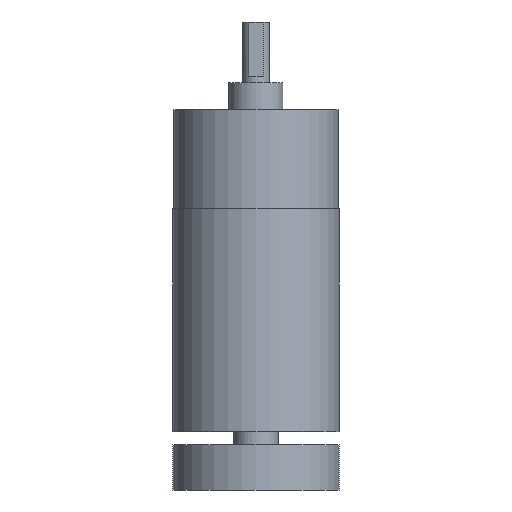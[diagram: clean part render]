
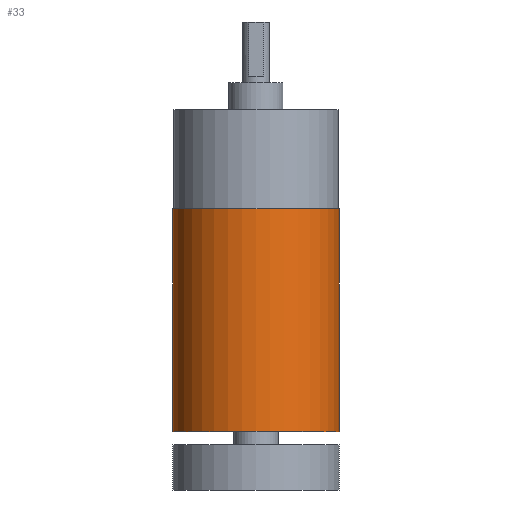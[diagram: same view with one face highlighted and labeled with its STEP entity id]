
A CAD part, front view. The second image highlights one B-rep face of the part: STEP entity #33.
In plain terms, the highlighted cylindrical face has radius 18.5 mm (diameter 37 mm), a partial arc.
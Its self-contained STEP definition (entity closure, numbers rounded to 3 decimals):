
#26 = AXIS2_PLACEMENT_3D ( 'NONE', #494, #157, #336 ) ;
#33 = ADVANCED_FACE ( 'NONE', ( #145 ), #886, .T. ) ;
#57 = ORIENTED_EDGE ( 'NONE', *, *, #199, .F. ) ;
#116 = CARTESIAN_POINT ( 'NONE',  ( -18.5, 0., 52.5 ) ) ;
#145 = FACE_OUTER_BOUND ( 'NONE', #470, .T. ) ;
#157 = DIRECTION ( 'NONE',  ( 0., 0., -1. ) ) ;
#199 = EDGE_CURVE ( 'NONE', #889, #447, #355, .T. ) ;
#240 = ORIENTED_EDGE ( 'NONE', *, *, #299, .T. ) ;
#267 = DIRECTION ( 'NONE',  ( 0., 0., -1. ) ) ;
#299 = EDGE_CURVE ( 'NONE', #1073, #447, #549, .T. ) ;
#329 = DIRECTION ( 'NONE',  ( 1., 0., 0. ) ) ;
#336 = DIRECTION ( 'NONE',  ( -1., 0., 0. ) ) ;
#355 = LINE ( 'NONE', #746, #412 ) ;
#373 = LINE ( 'NONE', #116, #827 ) ;
#389 = CIRCLE ( 'NONE', #526, 18.5 ) ;
#400 = CARTESIAN_POINT ( 'NONE',  ( -18.5, 0., 52.5 ) ) ;
#412 = VECTOR ( 'NONE', #267, 1000. ) ;
#447 = VERTEX_POINT ( 'NONE', #576 ) ;
#470 = EDGE_LOOP ( 'NONE', ( #57, #1047, #658, #240 ) ) ;
#494 = CARTESIAN_POINT ( 'NONE',  ( 0., 0., 52.5 ) ) ;
#526 = AXIS2_PLACEMENT_3D ( 'NONE', #582, #973, #329 ) ;
#541 = DIRECTION ( 'NONE',  ( 1., 0., 0. ) ) ;
#549 = CIRCLE ( 'NONE', #822, 18.5 ) ;
#576 = CARTESIAN_POINT ( 'NONE',  ( 18.5, 0., 3. ) ) ;
#582 = CARTESIAN_POINT ( 'NONE',  ( 0., 0., 52.5 ) ) ;
#619 = DIRECTION ( 'NONE',  ( 0., 0., 1. ) ) ;
#658 = ORIENTED_EDGE ( 'NONE', *, *, #1035, .T. ) ;
#668 = CARTESIAN_POINT ( 'NONE',  ( -18.5, 0., 3. ) ) ;
#746 = CARTESIAN_POINT ( 'NONE',  ( 18.5, 0., 52.5 ) ) ;
#818 = VERTEX_POINT ( 'NONE', #400 ) ;
#819 = EDGE_CURVE ( 'NONE', #818, #889, #389, .T. ) ;
#822 = AXIS2_PLACEMENT_3D ( 'NONE', #944, #619, #541 ) ;
#827 = VECTOR ( 'NONE', #854, 1000. ) ;
#854 = DIRECTION ( 'NONE',  ( 0., 0., -1. ) ) ;
#886 = CYLINDRICAL_SURFACE ( 'NONE', #26, 18.5 ) ;
#889 = VERTEX_POINT ( 'NONE', #979 ) ;
#944 = CARTESIAN_POINT ( 'NONE',  ( 0., 0., 3. ) ) ;
#973 = DIRECTION ( 'NONE',  ( 0., 0., 1. ) ) ;
#979 = CARTESIAN_POINT ( 'NONE',  ( 18.5, 0., 52.5 ) ) ;
#1035 = EDGE_CURVE ( 'NONE', #818, #1073, #373, .T. ) ;
#1047 = ORIENTED_EDGE ( 'NONE', *, *, #819, .F. ) ;
#1073 = VERTEX_POINT ( 'NONE', #668 ) ;
